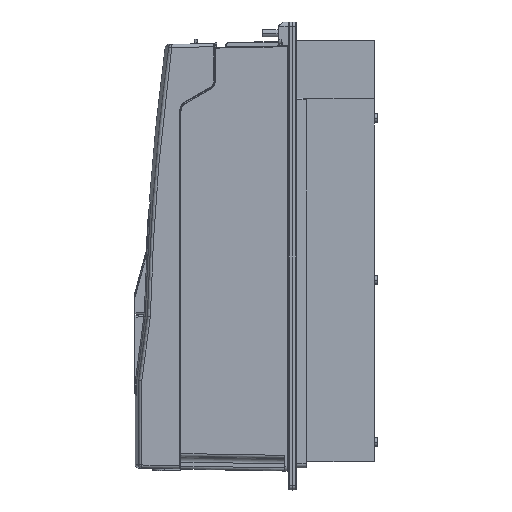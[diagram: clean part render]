
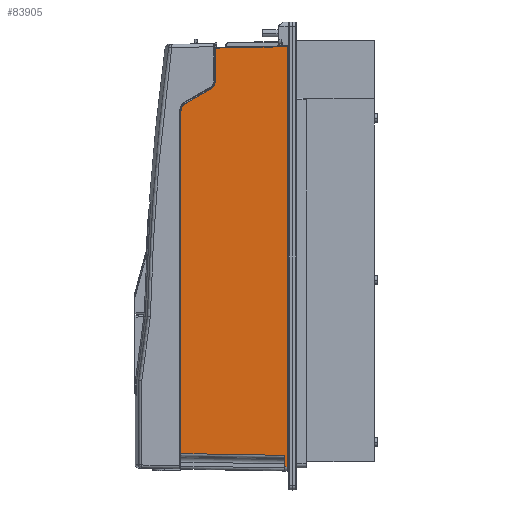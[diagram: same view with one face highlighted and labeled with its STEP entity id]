
A CAD part, left-side view. The second image highlights one B-rep face of the part: STEP entity #83905.
In plain terms, the highlighted planar face has unit normal (-1, 0.018, 0) as drawn and (1, 0.018, 0) by its records, which use the part's own axes.
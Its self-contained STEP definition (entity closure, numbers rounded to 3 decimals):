
#407 = VERTEX_POINT ( 'NONE', #104118 ) ;
#740 = EDGE_CURVE ( 'NONE', #94228, #56151, #47068, .T. ) ;
#815 = CARTESIAN_POINT ( 'NONE',  ( 123.214, 4.804, 471. ) ) ;
#2259 = ORIENTED_EDGE ( 'NONE', *, *, #71505, .T. ) ;
#4127 = CARTESIAN_POINT ( 'NONE',  ( 123.213, 4.86, 454.589 ) ) ;
#5101 = EDGE_CURVE ( 'NONE', #37856, #99812, #83631, .T. ) ;
#5317 = CARTESIAN_POINT ( 'NONE',  ( 121.15, 120., 471. ) ) ;
#6197 = LINE ( 'NONE', #30567, #95107 ) ;
#6310 = LINE ( 'NONE', #28570, #69323 ) ;
#7348 = ORIENTED_EDGE ( 'NONE', *, *, #17599, .T. ) ;
#8373 = VERTEX_POINT ( 'NONE', #98848 ) ;
#10918 = ORIENTED_EDGE ( 'NONE', *, *, #88573, .F. ) ;
#11964 = CARTESIAN_POINT ( 'NONE',  ( 121.834, 81.804, 37.726 ) ) ;
#12264 = CARTESIAN_POINT ( 'NONE',  ( 123.214, 4.804, 455.156 ) ) ;
#12302 = CARTESIAN_POINT ( 'NONE',  ( 121.84, 81.5, 37.726 ) ) ;
#13419 = CARTESIAN_POINT ( 'NONE',  ( 121.154, 119.804, 67.626 ) ) ;
#15250 = DIRECTION ( 'NONE',  ( 0., 0., 1. ) ) ;
#16200 = CARTESIAN_POINT ( 'NONE',  ( 121.834, 81.804, 37.726 ) ) ;
#16647 = EDGE_CURVE ( 'NONE', #8373, #81406, #91214, .T. ) ;
#17599 = EDGE_CURVE ( 'NONE', #98154, #88753, #28877, .T. ) ;
#19858 = ORIENTED_EDGE ( 'NONE', *, *, #77911, .F. ) ;
#20555 = EDGE_CURVE ( 'NONE', #73425, #407, #86335, .T. ) ;
#21236 = CARTESIAN_POINT ( 'NONE',  ( 121.154, 119.804, 451.497 ) ) ;
#25016 = CARTESIAN_POINT ( 'NONE',  ( 121.84, 81.5, 0.99 ) ) ;
#25737 = DIRECTION ( 'NONE',  ( 0., 0., 1. ) ) ;
#26011 = CARTESIAN_POINT ( 'NONE',  ( 123.214, 4.804, 455.156 ) ) ;
#27240 = ORIENTED_EDGE ( 'NONE', *, *, #29574, .T. ) ;
#28510 = CARTESIAN_POINT ( 'NONE',  ( 123.207, 5.196, 453.497 ) ) ;
#28570 = CARTESIAN_POINT ( 'NONE',  ( 123.269, 1.704, 471. ) ) ;
#28877 =( BOUNDED_CURVE ( )  B_SPLINE_CURVE ( 3, ( #88550, #96167, #13419, #105339 ),
 .UNSPECIFIED., .F., .F. ) 
 B_SPLINE_CURVE_WITH_KNOTS ( ( 4, 4 ),
 ( 2.094, 3.142 ),
 .UNSPECIFIED. ) 
 CURVE ( )  GEOMETRIC_REPRESENTATION_ITEM ( )  RATIONAL_B_SPLINE_CURVE ( ( 1., 0.911, 0.911, 1. ) ) 
 REPRESENTATION_ITEM ( '' )  );
#29097 = DIRECTION ( 'NONE',  ( 0., 0., -1. ) ) ;
#29574 = EDGE_CURVE ( 'NONE', #99812, #8373, #74933, .T. ) ;
#30567 = CARTESIAN_POINT ( 'NONE',  ( 121.15, 120., 37.726 ) ) ;
#31547 = CARTESIAN_POINT ( 'NONE',  ( 123.212, 4.939, 453.502 ) ) ;
#33472 = EDGE_CURVE ( 'NONE', #407, #98154, #68661, .T. ) ;
#33906 = CARTESIAN_POINT ( 'NONE',  ( 123.275, 1.413, 466.002 ) ) ;
#35740 = VERTEX_POINT ( 'NONE', #12302 ) ;
#37540 = EDGE_CURVE ( 'NONE', #88753, #41459, #104489, .T. ) ;
#37834 = PLANE ( 'NONE',  #63910 ) ;
#37856 = VERTEX_POINT ( 'NONE', #71303 ) ;
#38073 = LINE ( 'NONE', #31547, #103430 ) ;
#40138 = CARTESIAN_POINT ( 'NONE',  ( 121.154, 119.804, 471. ) ) ;
#40701 = VECTOR ( 'NONE', #25737, 1000. ) ;
#41188 = CARTESIAN_POINT ( 'NONE',  ( 123.269, 1.704, -0.542 ) ) ;
#41459 = VERTEX_POINT ( 'NONE', #21236 ) ;
#44343 = DIRECTION ( 'NONE',  ( -0.016, 0.866, 0.5 ) ) ;
#44388 = ORIENTED_EDGE ( 'NONE', *, *, #740, .T. ) ;
#44476 = CARTESIAN_POINT ( 'NONE',  ( 123.269, 1.704, 465.997 ) ) ;
#45746 = DIRECTION ( 'NONE',  ( 0.018, -1., 0. ) ) ;
#46020 = CARTESIAN_POINT ( 'NONE',  ( 121.801, 83.67, 44.693 ) ) ;
#46470 = FACE_OUTER_BOUND ( 'NONE', #77347, .T. ) ;
#46883 = ORIENTED_EDGE ( 'NONE', *, *, #5101, .T. ) ;
#47068 = LINE ( 'NONE', #63834, #79147 ) ;
#49266 = ORIENTED_EDGE ( 'NONE', *, *, #81121, .T. ) ;
#50004 = CARTESIAN_POINT ( 'NONE',  ( 121.241, 114.904, 62.726 ) ) ;
#50416 = VECTOR ( 'NONE', #15250, 1000. ) ;
#51599 = VECTOR ( 'NONE', #44343, 1000. ) ;
#53352 = CARTESIAN_POINT ( 'NONE',  ( 123.21, 5.009, 454.037 ) ) ;
#56151 = VERTEX_POINT ( 'NONE', #25016 ) ;
#56479 = CARTESIAN_POINT ( 'NONE',  ( 121.154, 119.804, 71.213 ) ) ;
#61491 = CARTESIAN_POINT ( 'NONE',  ( 123.209, 5.102, 453.767 ) ) ;
#63159 = LINE ( 'NONE', #79343, #102915 ) ;
#63754 = DIRECTION ( 'NONE',  ( 0.018, -1., 0. ) ) ;
#63834 = CARTESIAN_POINT ( 'NONE',  ( 120.989, 129.004, 1.902 ) ) ;
#63910 = AXIS2_PLACEMENT_3D ( 'NONE', #5317, #95667, #63754 ) ;
#65048 = DIRECTION ( 'NONE',  ( 0.018, -1., 0.017 ) ) ;
#68661 = LINE ( 'NONE', #85410, #51599 ) ;
#68854 = ORIENTED_EDGE ( 'NONE', *, *, #33472, .T. ) ;
#69323 = VECTOR ( 'NONE', #94509, 1000. ) ;
#71303 = CARTESIAN_POINT ( 'NONE',  ( 123.207, 5.196, 453.497 ) ) ;
#71505 = EDGE_CURVE ( 'NONE', #81406, #94228, #6310, .T. ) ;
#72425 = VECTOR ( 'NONE', #99857, 1000. ) ;
#73425 = VERTEX_POINT ( 'NONE', #16200 ) ;
#74933 = LINE ( 'NONE', #815, #40701 ) ;
#77347 = EDGE_LOOP ( 'NONE', ( #10918, #78118, #68854, #7348, #102463, #49266, #46883, #27240, #83161, #2259, #44388, #19858 ) ) ;
#77911 = EDGE_CURVE ( 'NONE', #35740, #56151, #63159, .T. ) ;
#78118 = ORIENTED_EDGE ( 'NONE', *, *, #20555, .T. ) ;
#79147 = VECTOR ( 'NONE', #88143, 1000. ) ;
#79343 = CARTESIAN_POINT ( 'NONE',  ( 121.84, 81.5, 471. ) ) ;
#79522 = CARTESIAN_POINT ( 'NONE',  ( 121.834, 81.804, 41.46 ) ) ;
#81121 = EDGE_CURVE ( 'NONE', #41459, #37856, #38073, .T. ) ;
#81406 = VERTEX_POINT ( 'NONE', #44476 ) ;
#83161 = ORIENTED_EDGE ( 'NONE', *, *, #16647, .T. ) ;
#83631 = B_SPLINE_CURVE_WITH_KNOTS ( 'NONE', 3,
 ( #28510, #61491, #53352, #4127, #86334, #12264 ),
 .UNSPECIFIED., .F., .F.,
 ( 4, 2, 4 ),
 ( 0., 0.001, 0.002 ),
 .UNSPECIFIED. ) ;
#83905 = ADVANCED_FACE ( 'NONE', ( #46470 ), #37834, .F. ) ;
#85410 = CARTESIAN_POINT ( 'NONE',  ( 121.241, 114.901, 62.724 ) ) ;
#86334 = CARTESIAN_POINT ( 'NONE',  ( 123.214, 4.804, 454.869 ) ) ;
#86335 =( BOUNDED_CURVE ( )  B_SPLINE_CURVE ( 3, ( #11964, #79522, #46020, #87089 ),
 .UNSPECIFIED., .F., .T. ) 
 B_SPLINE_CURVE_WITH_KNOTS ( ( 4, 4 ),
 ( 0., 1.047 ),
 .UNSPECIFIED. ) 
 CURVE ( )  GEOMETRIC_REPRESENTATION_ITEM ( )  RATIONAL_B_SPLINE_CURVE ( ( 1., 0.911, 0.911, 1. ) ) 
 REPRESENTATION_ITEM ( '' )  );
#87089 = CARTESIAN_POINT ( 'NONE',  ( 121.743, 86.904, 46.56 ) ) ;
#88143 = DIRECTION ( 'NONE',  ( -0.018, 1., 0.019 ) ) ;
#88550 = CARTESIAN_POINT ( 'NONE',  ( 121.241, 114.904, 62.726 ) ) ;
#88573 = EDGE_CURVE ( 'NONE', #73425, #35740, #6197, .T. ) ;
#88753 = VERTEX_POINT ( 'NONE', #56479 ) ;
#91214 = LINE ( 'NONE', #33906, #72425 ) ;
#94228 = VERTEX_POINT ( 'NONE', #41188 ) ;
#94509 = DIRECTION ( 'NONE',  ( 0., 0., -1. ) ) ;
#95107 = VECTOR ( 'NONE', #45746, 1000. ) ;
#95667 = DIRECTION ( 'NONE',  ( -1., -0.018, 0. ) ) ;
#96167 = CARTESIAN_POINT ( 'NONE',  ( 121.186, 118.01, 64.519 ) ) ;
#98154 = VERTEX_POINT ( 'NONE', #50004 ) ;
#98848 = CARTESIAN_POINT ( 'NONE',  ( 123.214, 4.804, 465.943 ) ) ;
#99812 = VERTEX_POINT ( 'NONE', #26011 ) ;
#99857 = DIRECTION ( 'NONE',  ( 0.018, -1., 0.017 ) ) ;
#102463 = ORIENTED_EDGE ( 'NONE', *, *, #37540, .T. ) ;
#102915 = VECTOR ( 'NONE', #29097, 1000. ) ;
#103430 = VECTOR ( 'NONE', #65048, 1000. ) ;
#104118 = CARTESIAN_POINT ( 'NONE',  ( 121.743, 86.904, 46.56 ) ) ;
#104489 = LINE ( 'NONE', #40138, #50416 ) ;
#105339 = CARTESIAN_POINT ( 'NONE',  ( 121.154, 119.804, 71.213 ) ) ;
